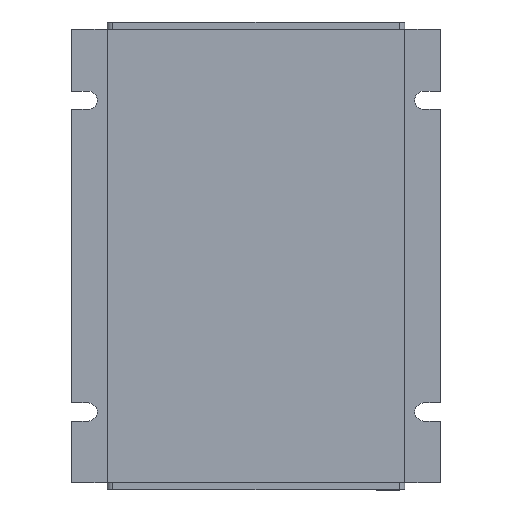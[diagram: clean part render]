
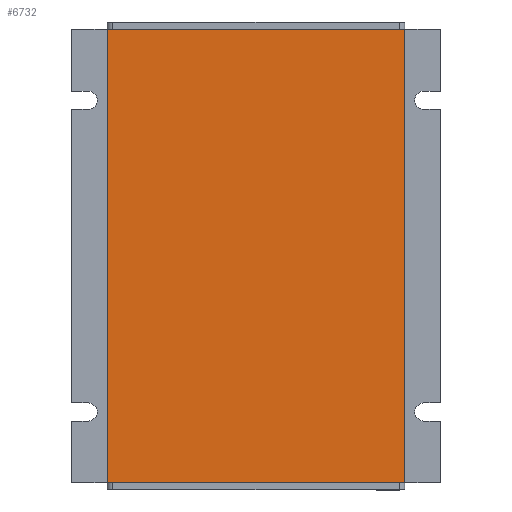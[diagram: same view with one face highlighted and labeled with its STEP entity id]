
A CAD part, top view. The second image highlights one B-rep face of the part: STEP entity #6732.
In plain terms, the highlighted planar face has unit normal (0, 0, 1) as drawn and (0, 0, -1) by its records, which use the part's own axes.
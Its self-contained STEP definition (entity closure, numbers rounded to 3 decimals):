
#348=PLANE('',#7186);
#815=LINE('',#10107,#1631);
#996=LINE('',#10507,#1812);
#1130=LINE('',#10782,#1946);
#1140=LINE('',#10804,#1956);
#1631=VECTOR('',#8193,10.);
#1812=VECTOR('',#8416,10.);
#1946=VECTOR('',#8784,10.);
#1956=VECTOR('',#8818,10.);
#2364=FACE_OUTER_BOUND('',#2707,.T.);
#2707=EDGE_LOOP('',(#6215,#6216,#6217,#6218));
#3249=VERTEX_POINT('',#10104);
#3250=VERTEX_POINT('',#10106);
#3447=VERTEX_POINT('',#10504);
#3448=VERTEX_POINT('',#10506);
#4054=EDGE_CURVE('',#3250,#3249,#815,.T.);
#4254=EDGE_CURVE('',#3448,#3447,#996,.T.);
#4393=EDGE_CURVE('',#3448,#3249,#1130,.T.);
#4403=EDGE_CURVE('',#3447,#3250,#1140,.T.);
#6215=ORIENTED_EDGE('',*,*,#4054,.T.);
#6216=ORIENTED_EDGE('',*,*,#4393,.F.);
#6217=ORIENTED_EDGE('',*,*,#4254,.T.);
#6218=ORIENTED_EDGE('',*,*,#4403,.T.);
#6732=ADVANCED_FACE('',(#2364),#348,.T.);
#7186=AXIS2_PLACEMENT_3D('',#10805,#8819,#8820);
#8193=DIRECTION('',(1.,0.,0.));
#8416=DIRECTION('',(-1.,0.,0.));
#8784=DIRECTION('',(0.,1.,0.));
#8818=DIRECTION('',(0.,1.,0.));
#8819=DIRECTION('center_axis',(0.,0.,-1.));
#8820=DIRECTION('ref_axis',(-1.,0.,0.));
#10104=CARTESIAN_POINT('',(52.5,160.,0.));
#10106=CARTESIAN_POINT('',(-52.5,160.,0.));
#10107=CARTESIAN_POINT('',(52.5,160.,0.));
#10504=CARTESIAN_POINT('',(-52.5,0.,0.));
#10506=CARTESIAN_POINT('',(52.5,0.,0.));
#10507=CARTESIAN_POINT('',(52.5,0.,0.));
#10782=CARTESIAN_POINT('',(52.5,0.,0.));
#10804=CARTESIAN_POINT('',(-52.5,0.,0.));
#10805=CARTESIAN_POINT('Origin',(-52.5,0.,0.));
